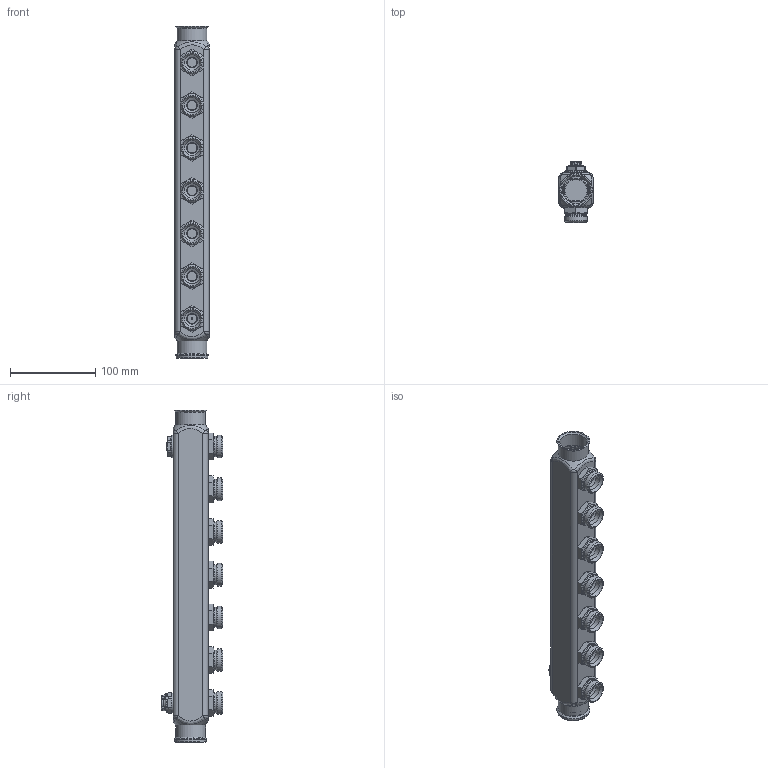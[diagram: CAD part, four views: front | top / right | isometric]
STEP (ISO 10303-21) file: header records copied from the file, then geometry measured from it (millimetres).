
FILE_DESCRIPTION(('STEP AP203'), '1');
FILE_NAME('VTc.505.SQ.060507', '2026-02-20T10:32:07', ('verevichevva'), ('Vesta'), 'C3D Converter', 'C3D Toolkit', '');
FILE_SCHEMA(('CONFIG_CONTROL_DESIGN'));
Length unit declared in the file: millimetre
Products named in the file (1): ВР.622621.188.000 СБ
Bounding box: 40 x 71.6 x 388.5 mm (x, y, z)
Volume: 158010.7 mm3; surface area: 159386.6 mm2
Topology: 23 solids, 23 shells, 953 faces, 2284 edges, 1411 vertices
Faces by surface type: plane 346, cone 184, cylinder 147, extrusion 118, torus 86, bspline 72
Full cylindrical faces by diameter (mm): 1.6 x1, 2.3 x1, 3.4 x1, 4.134 x1, 5 x1, 5.3 x1, 6.3 x2, 9.6 x1, 10.2 x1, 11 x7, 12.5 x7, 13 x1, 14 x1, 15.7 x1, 18 x8, 18.1 x7, 18.5 x1, 19 x8, 19.294 x1, 19.5 x2, 20 x1, 20.955 x9, 22 x1, 22.2 x9, 23 x1, 23.5 x7, 24 x1, 25.5 x1, 26 x1, 26.441 x7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
Entity records: 37662 total; most frequent: CARTESIAN_POINT 17949, ORIENTED_EDGE 4028, DIRECTION 3546, EDGE_CURVE 2014, VERTEX_POINT 1388, AXIS2_PLACEMENT_3D 1338, EDGE_LOOP 1254, ADVANCED_FACE 943
